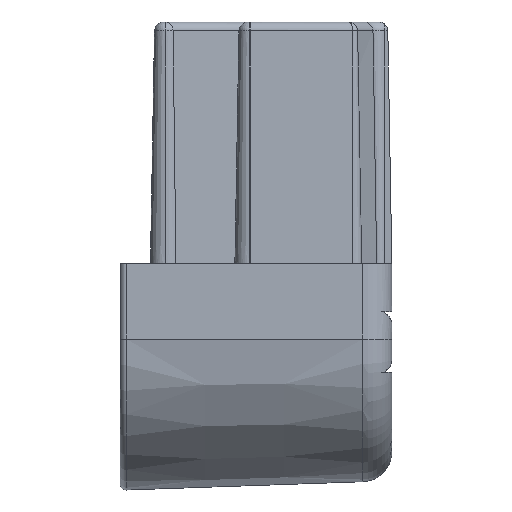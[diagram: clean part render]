
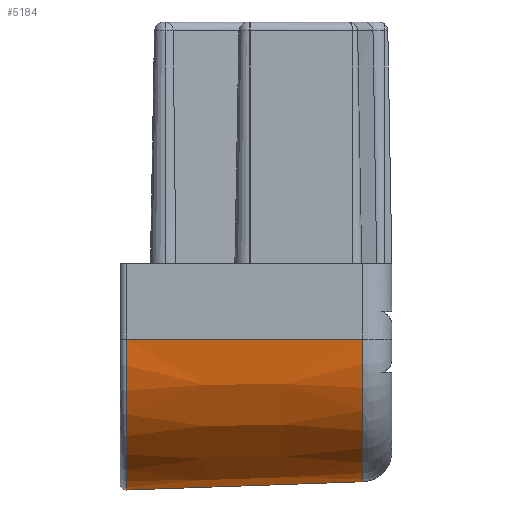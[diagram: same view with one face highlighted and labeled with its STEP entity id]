
A CAD part, left-side view. The second image highlights one B-rep face of the part: STEP entity #5184.
In plain terms, the highlighted conical face has half-angle 2 degrees and reference radius 5 mm.
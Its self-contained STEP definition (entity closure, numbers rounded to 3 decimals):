
#48 = CARTESIAN_POINT ( 'NONE',  ( -9.05, 8.793, -2.5 ) ) ;
#411 = ORIENTED_EDGE ( 'NONE', *, *, #10765, .T. ) ;
#750 = DIRECTION ( 'NONE',  ( 0., -0.999, 0.035 ) ) ;
#1776 = DIRECTION ( 'NONE',  ( -1., 0., 0. ) ) ;
#2569 = EDGE_CURVE ( 'NONE', #9092, #4072, #9037, .T. ) ;
#2622 = DIRECTION ( 'NONE',  ( 0.035, -0.999, 0. ) ) ;
#2789 = DIRECTION ( 'NONE',  ( 0., -1., 0. ) ) ;
#3273 = CONICAL_SURFACE ( 'NONE', #9980, 5., 0.035 ) ;
#3658 = DIRECTION ( 'NONE',  ( 0., 0., 1. ) ) ;
#4072 = VERTEX_POINT ( 'NONE', #4506 ) ;
#4506 = CARTESIAN_POINT ( 'NONE',  ( -4.05, 8.793, -7.5 ) ) ;
#4834 = LINE ( 'NONE', #13238, #5894 ) ;
#5146 = ORIENTED_EDGE ( 'NONE', *, *, #5567, .F. ) ;
#5184 = ADVANCED_FACE ( 'NONE', ( #6798 ), #3273, .T. ) ;
#5502 = AXIS2_PLACEMENT_3D ( 'NONE', #12091, #2789, #1776 ) ;
#5567 = EDGE_CURVE ( 'NONE', #9092, #7644, #9633, .T. ) ;
#5894 = VECTOR ( 'NONE', #750, 1000. ) ;
#6798 = FACE_OUTER_BOUND ( 'NONE', #8089, .T. ) ;
#7442 = CIRCLE ( 'NONE', #5502, 4.727 ) ;
#7549 = ORIENTED_EDGE ( 'NONE', *, *, #8573, .F. ) ;
#7644 = VERTEX_POINT ( 'NONE', #12855 ) ;
#7857 = CARTESIAN_POINT ( 'NONE',  ( -9.05, 8.793, -2.5 ) ) ;
#7877 = CARTESIAN_POINT ( 'NONE',  ( -4.05, 8.793, -2.5 ) ) ;
#8089 = EDGE_LOOP ( 'NONE', ( #7549, #5146, #13412, #411 ) ) ;
#8573 = EDGE_CURVE ( 'NONE', #7644, #13419, #7442, .T. ) ;
#9037 = CIRCLE ( 'NONE', #9705, 5. ) ;
#9092 = VERTEX_POINT ( 'NONE', #48 ) ;
#9142 = CARTESIAN_POINT ( 'NONE',  ( -4.05, 8.793, -2.5 ) ) ;
#9349 = VECTOR ( 'NONE', #2622, 1000. ) ;
#9633 = LINE ( 'NONE', #7857, #9349 ) ;
#9705 = AXIS2_PLACEMENT_3D ( 'NONE', #9142, #12263, #12471 ) ;
#9980 = AXIS2_PLACEMENT_3D ( 'NONE', #7877, #12007, #3658 ) ;
#10765 = EDGE_CURVE ( 'NONE', #4072, #13419, #4834, .T. ) ;
#12007 = DIRECTION ( 'NONE',  ( 0., 1., 0. ) ) ;
#12091 = CARTESIAN_POINT ( 'NONE',  ( -4.05, 0.965, -2.5 ) ) ;
#12263 = DIRECTION ( 'NONE',  ( 0., -1., 0. ) ) ;
#12471 = DIRECTION ( 'NONE',  ( -1., 0., 0. ) ) ;
#12478 = CARTESIAN_POINT ( 'NONE',  ( -4.05, 0.965, -7.227 ) ) ;
#12855 = CARTESIAN_POINT ( 'NONE',  ( -8.777, 0.965, -2.5 ) ) ;
#13238 = CARTESIAN_POINT ( 'NONE',  ( -4.05, 8.793, -7.5 ) ) ;
#13412 = ORIENTED_EDGE ( 'NONE', *, *, #2569, .T. ) ;
#13419 = VERTEX_POINT ( 'NONE', #12478 ) ;
